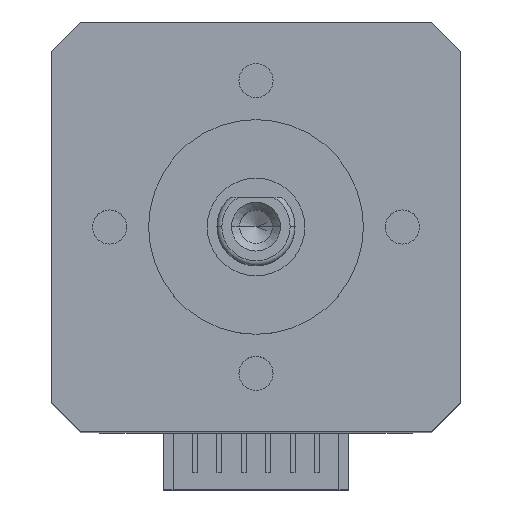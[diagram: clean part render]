
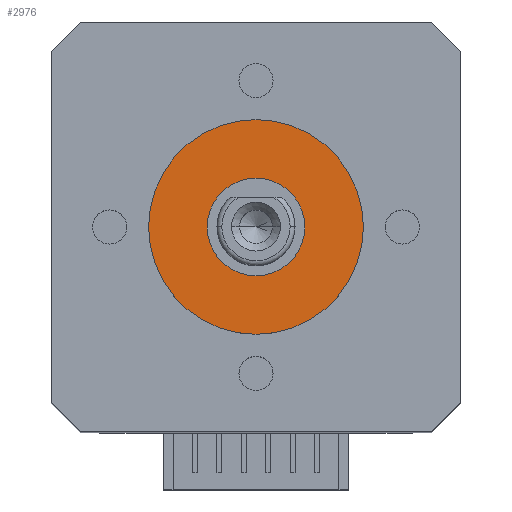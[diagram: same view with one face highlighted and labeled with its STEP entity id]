
A CAD part, top view. The second image highlights one B-rep face of the part: STEP entity #2976.
In plain terms, the highlighted planar face has unit normal (0, 0, 1).
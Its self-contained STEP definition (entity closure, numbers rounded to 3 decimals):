
#22 = AXIS2_PLACEMENT_3D ( 'NONE', #2981, #1398, #3262 ) ;
#124 = CARTESIAN_POINT ( 'NONE',  ( 11., 0., 2. ) ) ;
#133 = ORIENTED_EDGE ( 'NONE', *, *, #410, .F. ) ;
#254 = CARTESIAN_POINT ( 'NONE',  ( 0., 0., 2. ) ) ;
#284 = AXIS2_PLACEMENT_3D ( 'NONE', #1065, #1342, #1648 ) ;
#380 = VERTEX_POINT ( 'NONE', #1585 ) ;
#410 = EDGE_CURVE ( 'NONE', #3040, #3443, #827, .T. ) ;
#452 = ORIENTED_EDGE ( 'NONE', *, *, #3165, .F. ) ;
#476 = CARTESIAN_POINT ( 'NONE',  ( 5., 0., 2. ) ) ;
#638 = CIRCLE ( 'NONE', #1787, 5. ) ;
#701 = PLANE ( 'NONE',  #2817 ) ;
#721 = DIRECTION ( 'NONE',  ( -1., 0., 0. ) ) ;
#827 = CIRCLE ( 'NONE', #2833, 11. ) ;
#1065 = CARTESIAN_POINT ( 'NONE',  ( 0., 0., 2. ) ) ;
#1107 = EDGE_CURVE ( 'NONE', #3111, #380, #2179, .T. ) ;
#1342 = DIRECTION ( 'NONE',  ( 0., 0., -1. ) ) ;
#1398 = DIRECTION ( 'NONE',  ( 0., 0., 1. ) ) ;
#1402 = DIRECTION ( 'NONE',  ( 0., 0., -1. ) ) ;
#1518 = DIRECTION ( 'NONE',  ( 0., 0., -1. ) ) ;
#1553 = EDGE_LOOP ( 'NONE', ( #133, #3515 ) ) ;
#1585 = CARTESIAN_POINT ( 'NONE',  ( -5., 0., 2. ) ) ;
#1648 = DIRECTION ( 'NONE',  ( -1., 0., 0. ) ) ;
#1787 = AXIS2_PLACEMENT_3D ( 'NONE', #2452, #1911, #3504 ) ;
#1911 = DIRECTION ( 'NONE',  ( 0., 0., 1. ) ) ;
#1912 = DIRECTION ( 'NONE',  ( -1., 0., 0. ) ) ;
#2018 = ORIENTED_EDGE ( 'NONE', *, *, #1107, .F. ) ;
#2066 = CARTESIAN_POINT ( 'NONE',  ( 0., 0., 2. ) ) ;
#2106 = EDGE_CURVE ( 'NONE', #3443, #3040, #2766, .T. ) ;
#2179 = CIRCLE ( 'NONE', #22, 5. ) ;
#2207 = FACE_OUTER_BOUND ( 'NONE', #1553, .T. ) ;
#2452 = CARTESIAN_POINT ( 'NONE',  ( 0., 0., 2. ) ) ;
#2484 = EDGE_LOOP ( 'NONE', ( #452, #2018 ) ) ;
#2667 = CARTESIAN_POINT ( 'NONE',  ( -11., 0., 2. ) ) ;
#2766 = CIRCLE ( 'NONE', #284, 11. ) ;
#2817 = AXIS2_PLACEMENT_3D ( 'NONE', #2066, #1518, #721 ) ;
#2833 = AXIS2_PLACEMENT_3D ( 'NONE', #254, #1402, #1912 ) ;
#2969 = FACE_BOUND ( 'NONE', #2484, .T. ) ;
#2976 = ADVANCED_FACE ( 'NONE', ( #2207, #2969 ), #701, .F. ) ;
#2981 = CARTESIAN_POINT ( 'NONE',  ( 0., 0., 2. ) ) ;
#3040 = VERTEX_POINT ( 'NONE', #2667 ) ;
#3111 = VERTEX_POINT ( 'NONE', #476 ) ;
#3165 = EDGE_CURVE ( 'NONE', #380, #3111, #638, .T. ) ;
#3262 = DIRECTION ( 'NONE',  ( -1., 0., 0. ) ) ;
#3443 = VERTEX_POINT ( 'NONE', #124 ) ;
#3504 = DIRECTION ( 'NONE',  ( -1., 0., 0. ) ) ;
#3515 = ORIENTED_EDGE ( 'NONE', *, *, #2106, .F. ) ;
